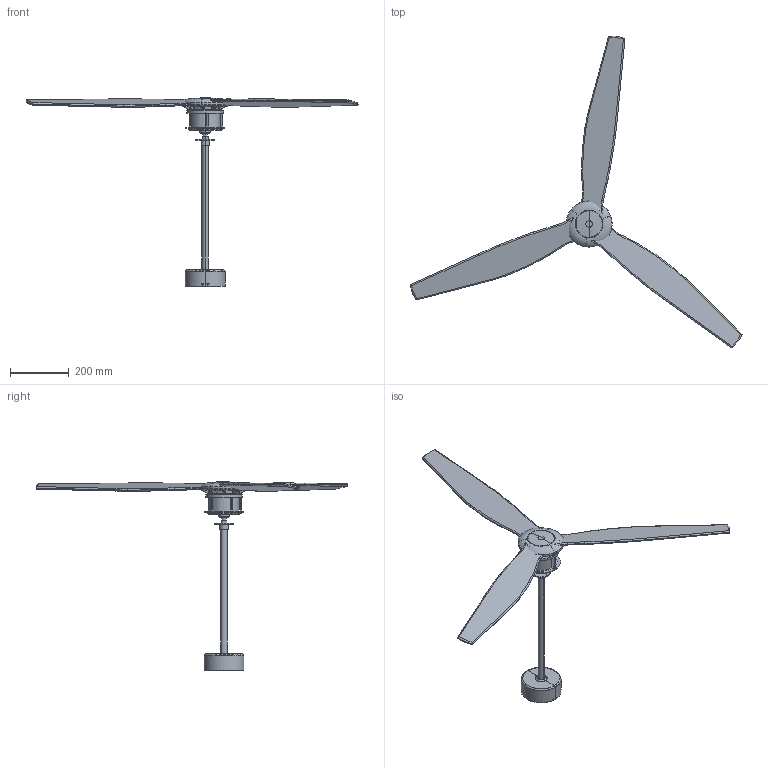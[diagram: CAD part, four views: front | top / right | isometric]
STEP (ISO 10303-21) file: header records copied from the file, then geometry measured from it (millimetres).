
FILE_DESCRIPTION(/* description */ (''),/* implementation_level */ '2;1');
FILE_NAME(/* name */ 'C:\Users\Franco Sartori E\Documents\FARO\DUPLICADO\Modelos\01_Digitalizados\0_JUST FAN\03_Publicación\1280\32100 - Vista 3D - {3D}.stp',/* time_stamp */ '2020-07-24T10:02:35+02:00',/* author */ ('Franco Sartori E'),/* organization */ (''),/* preprocessor_version */ 'ST-DEVELOPER v18',/* originating_system */ 'AutoCAD Mechanical',/* authorisation */ '');
FILE_SCHEMA (('AUTOMOTIVE_DESIGN { 1 0 10303 214 3 1 1 }'));
Length unit declared in the file: millimetre
Products named in the file (2): Product; 32100_33394_33395_33398_33399_33417_33418_JUSTFAN_motor - JUST FAN-45
6436-_3D_
Assembly tree (1 placements, depth 2):
  Product
    32100_33394_33395_33398_33399_33417_33418_JUSTFAN_motor - JUST FAN-45
6436-_3D_
Bounding box: 1127.17 x 1058.55 x 640.76 mm (x, y, z)
Volume: 2644661.7 mm3; surface area: 617814.1 mm2
Topology: 19 solids, 20 shells, 620 faces, 1599 edges, 1014 vertices
Faces by surface type: plane 184, cylinder 181, torus 145, bspline 70, cone 34, sphere 6
Entity records: 27508 total; most frequent: CARTESIAN_POINT 13697, ORIENTED_EDGE 3110, DIRECTION 2360, EDGE_CURVE 1599, VERTEX_POINT 1014, AXIS2_PLACEMENT_3D 919, B_SPLINE_CURVE_WITH_KNOTS 709, EDGE_LOOP 677
